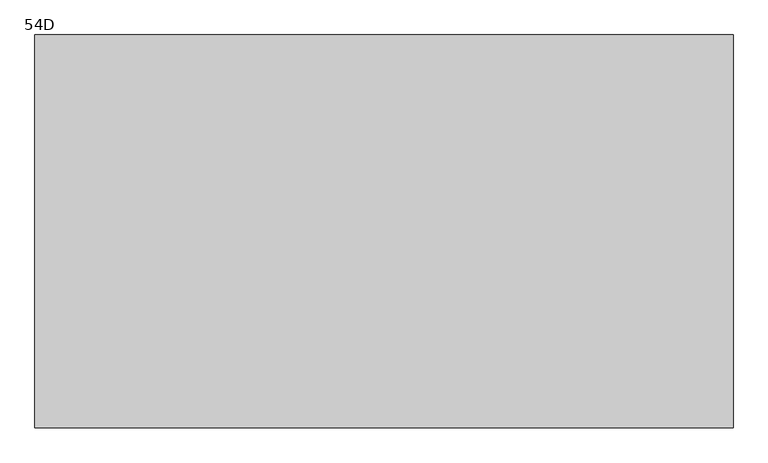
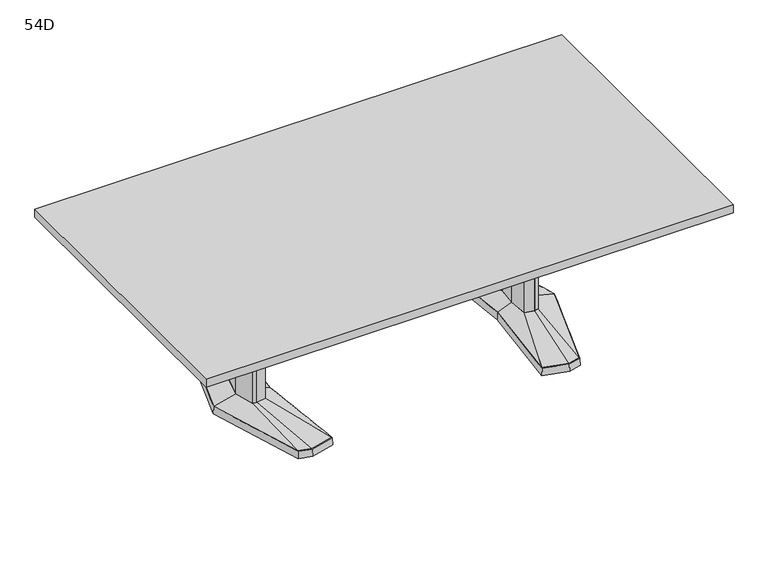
"""IFC4 building model written with IfcOpenShell, lengths in millimetres: furniture geometry, Coalesse_AM_Table_Conference_ETable2_Rectangular_96in_AluminiumBase : 54D."""

from ifc_helpers import new_model, si_unit, frame, origin, place, context, project, spatial, polyline, outline, extrude, faceted_brep, source, transform, mapped, element, save
from ifc_brep_helpers import plane_surface, spline_surface, advanced_brep


def furniture_54d_18104b15(model_context):
    return source(origin(), model_context, "Body", "SolidModel", [
        faceted_brep([(594.6806835, 455.5848221, 38.1), (485.1031277, 426.2263816, 38.1), (526.2663717, 0.0, 38.1), (485.1031277, -426.2263816, 38.1), (594.6806835, -455.5848221, 38.1), (650.8070396, -440.5478297, 38.1), (788.1184269, 0.0, 38.1), (650.8070396, 440.5478297, 38.1), (594.6806754, 457.2283104, 3.175), (652.0624472, 441.8549756, 3.175), (789.78125, 0.0, 3.175), (652.0624472, -441.8549756, 3.175), (594.6806754, -457.2283104, 3.175), (483.39375, -427.4118891, 3.175), (524.6714856, 0.0, 3.175), (483.39375, 427.4118891, 3.175), (598.270115, 428.3273875, 3.175), (493.2218228, 402.1057253, 3.175), (501.340518, 377.985069, 3.175), (601.8595466, 401.0699529, 3.175), (652.4191725, 387.524361, 3.175), (651.6131061, 414.0360954, 3.175), (598.270115, -428.3273875, 3.175), (651.6131061, -414.0360954, 3.175), (652.4191725, -387.524361, 3.175), (601.8595466, -401.0699529, 3.175), (501.340518, -377.985069, 3.175), (493.2218228, -402.1057253, 3.175), (724.8653621, 0.0, 3.175), (692.5959611, 120.4193755, 3.175), (643.9487222, 133.471665, 3.175), (564.0680526, 119.4176561, 3.175), (552.9368466, 0.0, 3.175), (564.0680526, -119.4176561, 3.175), (643.9487222, -133.471665, 3.175), (692.5959611, -120.4193755, 3.175), (598.270115, 428.3273875, 0.0), (651.6131061, 414.0360954, 0.0), (652.4191725, 387.524361, 0.0), (601.8595466, 401.0699529, 0.0), (501.340518, 377.985069, 0.0), (493.2218228, 402.1057253, 0.0), (598.270115, -428.3273875, 0.0), (493.2218228, -402.1057253, 0.0), (501.340518, -377.985069, 0.0), (601.8595466, -401.0699529, 0.0), (652.4191725, -387.524361, 0.0), (651.6131061, -414.0360954, 0.0), (724.8653621, 0.0, 0.0), (692.5959611, -120.4193755, 0.0), (643.9487222, -133.471665, 0.0), (564.0680526, -119.4176561, 0.0), (552.9368466, 0.0, 0.0), (564.0680526, 119.4176561, 0.0), (643.9487222, 133.471665, 0.0), (692.5959611, 120.4193755, 0.0)], [[[0, 1, 2, 3, 4, 5, 6, 7]], [[8, 9, 10, 11, 12, 13, 14, 15], [16, 17, 18, 19, 20, 21], [22, 23, 24, 25, 26, 27], [28, 29, 30, 31, 32, 33, 34, 35]], [[7, 9, 8, 0]], [[6, 10, 9, 7]], [[5, 11, 10, 6]], [[4, 12, 11, 5]], [[3, 13, 12, 4]], [[2, 14, 13, 3]], [[1, 15, 14, 2]], [[0, 8, 15, 1]], [[36, 37, 38, 39, 40, 41]], [[42, 43, 44, 45, 46, 47]], [[48, 49, 50, 51, 52, 53, 54, 55]], [[36, 16, 21, 37]], [[37, 21, 20, 38]], [[38, 20, 19, 39]], [[39, 19, 18, 40]], [[40, 18, 17, 41]], [[41, 17, 16, 36]], [[42, 22, 27, 43]], [[43, 27, 26, 44]], [[44, 26, 25, 45]], [[45, 25, 24, 46]], [[46, 24, 23, 47]], [[47, 23, 22, 42]], [[48, 28, 35, 49]], [[49, 35, 34, 50]], [[50, 34, 33, 51]], [[51, 33, 32, 52]], [[52, 32, 31, 53]], [[53, 31, 30, 54]], [[54, 30, 29, 55]], [[55, 29, 28, 48]]]),
        faceted_brep([(685.4210836, 0.0, 698.5), (661.4858546, 89.3188359, 698.5), (644.6324984, 93.8406728, 698.5), (642.2326511, 94.4845635, 698.5), (599.305146, 86.9320037, 698.5), (591.2020056, 0.0, 698.5), (599.305146, -86.9320037, 698.5), (642.2326511, -94.4845635, 698.5), (644.6324984, -93.8406728, 698.5), (661.4858546, -89.3188359, 698.5), (685.4210836, 0.0, 63.5), (661.4858546, -89.3188359, 63.5), (644.6324984, -93.8406728, 63.5), (642.2326511, -94.4845635, 63.5), (599.305146, -86.9320037, 63.5), (591.2020056, 0.0, 63.5), (599.305146, 86.9320037, 63.5), (642.2326511, 94.4845635, 63.5), (644.6324984, 93.8406728, 63.5), (661.4858546, 89.3188359, 63.5)], [[[0, 1, 2, 3, 4, 5, 6, 7, 8, 9]], [[10, 11, 12, 13, 14, 15, 16, 17, 18, 19]], [[9, 11, 10, 0]], [[8, 12, 11, 9]], [[7, 13, 12, 8]], [[6, 14, 13, 7]], [[5, 15, 14, 6]], [[4, 16, 15, 5]], [[3, 17, 16, 4]], [[2, 18, 17, 3]], [[1, 19, 18, 2]], [[0, 10, 19, 1]]]),
        advanced_brep(
        [(642.2326511, 94.4845635, 63.5), (599.305146, 86.9320037, 63.5), (591.2020056, 0.0, 63.5), (599.305146, -86.9320037, 63.5), (642.2326511, -94.4845635, 63.5), (661.4858546, -89.3188359, 63.5), (685.4210836, 0.0, 63.5), (661.4858546, 89.3188359, 63.5), (594.6806835, 455.5848221, 38.1), (650.8070396, 440.5478297, 38.1), (788.1184269, 0.0, 38.1), (650.8070396, -440.5478297, 38.1), (594.6806835, -455.5848221, 38.1), (485.1031277, -426.2263816, 38.1), (526.2663717, 0.0, 38.1), (485.1031277, 426.2263816, 38.1)],
        [
            (0, 1),
            (1, 2),
            (2, 3),
            (3, 4),
            (4, 5),
            (5, 6),
            (6, 7),
            (7, 0),
            (8, 9),
            (9, 10),
            (10, 11),
            (11, 12),
            (12, 13),
            (13, 14),
            (14, 15),
            (15, 8),
            (8, 0),
            (7, 9),
            (6, 10),
            (5, 11),
            (4, 12),
            (3, 13),
            (2, 14),
            (1, 15),
        ],
        [
            plane_surface(frame((635.3337991, 0.0, 63.5), z_axis=(0.0, 0.0, 1.0), x_axis=(-0.25884244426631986, -0.9659195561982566, 0.0))),
            plane_surface(frame((596.9458125, 0.0, 38.1), z_axis=(0.0, 0.0, -1.0), x_axis=(-0.25884244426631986, -0.9659195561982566, 0.0))),
            spline_surface(1, 1, [[(594.6806835, 455.5848221, 38.1), (650.8070396, 440.5478297, 38.1)], [(642.2326511, 94.4845635, 63.5), (661.4858546, 89.3188359, 63.5)]], [2, 2], [2, 2], [0.0, 1.0], [0.0, 1.0]),
            spline_surface(1, 1, [[(650.8070396, 440.5478297, 38.1), (788.1184269, 0.0, 38.1)], [(661.4858546, 89.3188359, 63.5), (685.4210836, 0.0, 63.5)]], [2, 2], [2, 2], [0.0, 1.0], [0.0, 1.0]),
            spline_surface(1, 1, [[(788.1184269, 0.0, 38.1), (650.8070396, -440.5478297, 38.1)], [(685.4210836, 0.0, 63.5), (661.4858546, -89.3188359, 63.5)]], [2, 2], [2, 2], [0.0, 1.0], [0.0, 1.0]),
            spline_surface(1, 1, [[(650.8070396, -440.5478297, 38.1), (594.6806835, -455.5848221, 38.1)], [(661.4858546, -89.3188359, 63.5), (642.2326511, -94.4845635, 63.5)]], [2, 2], [2, 2], [0.0, 1.0], [0.0, 1.0]),
            spline_surface(1, 1, [[(594.6806835, -455.5848221, 38.1), (485.1031277, -426.2263816, 38.1)], [(642.2326511, -94.4845635, 63.5), (599.305146, -86.9320037, 63.5)]], [2, 2], [2, 2], [0.0, 1.0], [0.0, 1.0]),
            spline_surface(1, 1, [[(485.1031277, -426.2263816, 38.1), (526.2663717, 0.0, 38.1)], [(599.305146, -86.9320037, 63.5), (591.2020056, 0.0, 63.5)]], [2, 2], [2, 2], [0.0, 1.0], [0.0, 1.0]),
            spline_surface(1, 1, [[(526.2663717, 0.0, 38.1), (485.1031277, 426.2263816, 38.1)], [(591.2020056, 0.0, 63.5), (599.305146, 86.9320037, 63.5)]], [2, 2], [2, 2], [0.0, 1.0], [0.0, 1.0]),
            spline_surface(1, 1, [[(485.1031277, 426.2263816, 38.1), (594.6806835, 455.5848221, 38.1)], [(599.305146, 86.9320037, 63.5), (642.2326511, 94.4845635, 63.5)]], [2, 2], [2, 2], [0.0, 1.0], [0.0, 1.0]),
        ],
        [
            (0, [[1, 2, 3, 4, 5, 6, 7, 8]]),
            (1, [[9, 10, 11, 12, 13, 14, 15, 16]]),
            (2, [[17, -8, 18, -9]]),
            (3, [[-18, -7, 19, -10]]),
            (4, [[-19, -6, 20, -11]]),
            (5, [[-20, -5, 21, -12]]),
            (6, [[-21, -4, 22, -13]]),
            (7, [[-22, -3, 23, -14]]),
            (8, [[-23, -2, 24, -15]]),
            (9, [[-24, -1, -17, -16]]),
        ],
    ),
        faceted_brep([(-594.6806835, 455.5848221, 38.1), (-650.8070396, 440.5478297, 38.1), (-788.1184269, 0.0, 38.1), (-650.8070396, -440.5478297, 38.1), (-594.6806835, -455.5848221, 38.1), (-485.1031277, -426.2263816, 38.1), (-526.2663717, 0.0, 38.1), (-485.1031277, 426.2263816, 38.1), (-594.6806754, 457.2283104, 3.175), (-483.39375, 427.4118891, 3.175), (-524.6714856, 0.0, 3.175), (-483.39375, -427.4118891, 3.175), (-594.6806754, -457.2283104, 3.175), (-652.0624472, -441.8549756, 3.175), (-789.78125, 0.0, 3.175), (-652.0624472, 441.8549756, 3.175), (-598.270115, 428.3273875, 3.175), (-651.6131061, 414.0360954, 3.175), (-652.4191725, 387.524361, 3.175), (-601.8595466, 401.0699529, 3.175), (-501.340518, 377.985069, 3.175), (-493.2218228, 402.1057253, 3.175), (-598.270115, -428.3273875, 3.175), (-493.2218228, -402.1057253, 3.175), (-501.340518, -377.985069, 3.175), (-601.8595466, -401.0699529, 3.175), (-652.4191725, -387.524361, 3.175), (-651.6131061, -414.0360954, 3.175), (-724.8653621, 0.0, 3.175), (-692.5959611, -120.4193755, 3.175), (-643.9487222, -133.471665, 3.175), (-564.0680526, -119.4176561, 3.175), (-552.9368466, 0.0, 3.175), (-564.0680526, 119.4176561, 3.175), (-643.9487222, 133.471665, 3.175), (-692.5959611, 120.4193755, 3.175), (-598.270115, 428.3273875, 0.0), (-493.2218228, 402.1057253, 0.0), (-501.340518, 377.985069, 0.0), (-601.8595466, 401.0699529, 0.0), (-652.4191725, 387.524361, 0.0), (-651.6131061, 414.0360954, 0.0), (-598.270115, -428.3273875, 0.0), (-651.6131061, -414.0360954, 0.0), (-652.4191725, -387.524361, 0.0), (-601.8595466, -401.0699529, 0.0), (-501.340518, -377.985069, 0.0), (-493.2218228, -402.1057253, 0.0), (-724.8653621, 0.0, 0.0), (-692.5959611, 120.4193755, 0.0), (-643.9487222, 133.471665, 0.0), (-564.0680526, 119.4176561, 0.0), (-552.9368466, 0.0, 0.0), (-564.0680526, -119.4176561, 0.0), (-643.9487222, -133.471665, 0.0), (-692.5959611, -120.4193755, 0.0)], [[[0, 1, 2, 3, 4, 5, 6, 7]], [[8, 9, 10, 11, 12, 13, 14, 15], [16, 17, 18, 19, 20, 21], [22, 23, 24, 25, 26, 27], [28, 29, 30, 31, 32, 33, 34, 35]], [[1, 0, 8, 15]], [[2, 1, 15, 14]], [[3, 2, 14, 13]], [[4, 3, 13, 12]], [[5, 4, 12, 11]], [[6, 5, 11, 10]], [[7, 6, 10, 9]], [[0, 7, 9, 8]], [[36, 37, 38, 39, 40, 41]], [[42, 43, 44, 45, 46, 47]], [[48, 49, 50, 51, 52, 53, 54, 55]], [[36, 41, 17, 16]], [[41, 40, 18, 17]], [[40, 39, 19, 18]], [[39, 38, 20, 19]], [[38, 37, 21, 20]], [[37, 36, 16, 21]], [[42, 47, 23, 22]], [[47, 46, 24, 23]], [[46, 45, 25, 24]], [[45, 44, 26, 25]], [[44, 43, 27, 26]], [[43, 42, 22, 27]], [[48, 55, 29, 28]], [[55, 54, 30, 29]], [[54, 53, 31, 30]], [[53, 52, 32, 31]], [[52, 51, 33, 32]], [[51, 50, 34, 33]], [[50, 49, 35, 34]], [[49, 48, 28, 35]]]),
        faceted_brep([(-685.4210836, 0.0, 698.5), (-661.4858546, -89.3188359, 698.5), (-644.6324984, -93.8406728, 698.5), (-642.2326511, -94.4845635, 698.5), (-599.305146, -86.9320037, 698.5), (-591.2020056, 0.0, 698.5), (-599.305146, 86.9320037, 698.5), (-642.2326511, 94.4845635, 698.5), (-644.6324984, 93.8406728, 698.5), (-661.4858546, 89.3188359, 698.5), (-685.4210836, 0.0, 63.5), (-661.4858546, 89.3188359, 63.5), (-644.6324984, 93.8406728, 63.5), (-642.2326511, 94.4845635, 63.5), (-599.305146, 86.9320037, 63.5), (-591.2020056, 0.0, 63.5), (-599.305146, -86.9320037, 63.5), (-642.2326511, -94.4845635, 63.5), (-644.6324984, -93.8406728, 63.5), (-661.4858546, -89.3188359, 63.5)], [[[0, 1, 2, 3, 4, 5, 6, 7, 8, 9]], [[10, 11, 12, 13, 14, 15, 16, 17, 18, 19]], [[1, 0, 10, 19]], [[2, 1, 19, 18]], [[3, 2, 18, 17]], [[4, 3, 17, 16]], [[5, 4, 16, 15]], [[6, 5, 15, 14]], [[7, 6, 14, 13]], [[8, 7, 13, 12]], [[9, 8, 12, 11]], [[0, 9, 11, 10]]]),
        advanced_brep(
        [(-642.2326511, 94.4845635, 63.5), (-661.4858546, 89.3188359, 63.5), (-685.4210836, 0.0, 63.5), (-661.4858546, -89.3188359, 63.5), (-642.2326511, -94.4845635, 63.5), (-599.305146, -86.9320037, 63.5), (-591.2020056, 0.0, 63.5), (-599.305146, 86.9320037, 63.5), (-594.6806835, 455.5848221, 38.1), (-485.1031277, 426.2263816, 38.1), (-526.2663717, 0.0, 38.1), (-485.1031277, -426.2263816, 38.1), (-594.6806835, -455.5848221, 38.1), (-650.8070396, -440.5478297, 38.1), (-788.1184269, 0.0, 38.1), (-650.8070396, 440.5478297, 38.1)],
        [
            (0, 1),
            (1, 2),
            (2, 3),
            (3, 4),
            (4, 5),
            (5, 6),
            (6, 7),
            (7, 0),
            (8, 9),
            (9, 10),
            (10, 11),
            (11, 12),
            (12, 13),
            (13, 14),
            (14, 15),
            (15, 8),
            (15, 1),
            (0, 8),
            (14, 2),
            (13, 3),
            (12, 4),
            (11, 5),
            (10, 6),
            (9, 7),
        ],
        [
            plane_surface(frame((-635.3337991, 0.0, 63.5), z_axis=(0.0, 0.0, 1.0), x_axis=(0.25884244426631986, -0.9659195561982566, 0.0))),
            plane_surface(frame((-596.9458125, 0.0, 38.1), z_axis=(0.0, 0.0, -1.0), x_axis=(0.25884244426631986, -0.9659195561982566, 0.0))),
            spline_surface(1, 1, [[(-594.6806835, 455.5848221, 38.1), (-642.2326511, 94.4845635, 63.5)], [(-650.8070396, 440.5478297, 38.1), (-661.4858546, 89.3188359, 63.5)]], [2, 2], [2, 2], [0.0, 1.0], [0.0, 1.0]),
            spline_surface(1, 1, [[(-650.8070396, 440.5478297, 38.1), (-661.4858546, 89.3188359, 63.5)], [(-788.1184269, 0.0, 38.1), (-685.4210836, 0.0, 63.5)]], [2, 2], [2, 2], [0.0, 1.0], [0.0, 1.0]),
            spline_surface(1, 1, [[(-788.1184269, 0.0, 38.1), (-685.4210836, 0.0, 63.5)], [(-650.8070396, -440.5478297, 38.1), (-661.4858546, -89.3188359, 63.5)]], [2, 2], [2, 2], [0.0, 1.0], [0.0, 1.0]),
            spline_surface(1, 1, [[(-650.8070396, -440.5478297, 38.1), (-661.4858546, -89.3188359, 63.5)], [(-594.6806835, -455.5848221, 38.1), (-642.2326511, -94.4845635, 63.5)]], [2, 2], [2, 2], [0.0, 1.0], [0.0, 1.0]),
            spline_surface(1, 1, [[(-594.6806835, -455.5848221, 38.1), (-642.2326511, -94.4845635, 63.5)], [(-485.1031277, -426.2263816, 38.1), (-599.305146, -86.9320037, 63.5)]], [2, 2], [2, 2], [0.0, 1.0], [0.0, 1.0]),
            spline_surface(1, 1, [[(-485.1031277, -426.2263816, 38.1), (-599.305146, -86.9320037, 63.5)], [(-526.2663717, 0.0, 38.1), (-591.2020056, 0.0, 63.5)]], [2, 2], [2, 2], [0.0, 1.0], [0.0, 1.0]),
            spline_surface(1, 1, [[(-526.2663717, 0.0, 38.1), (-591.2020056, 0.0, 63.5)], [(-485.1031277, 426.2263816, 38.1), (-599.305146, 86.9320037, 63.5)]], [2, 2], [2, 2], [0.0, 1.0], [0.0, 1.0]),
            spline_surface(1, 1, [[(-485.1031277, 426.2263816, 38.1), (-599.305146, 86.9320037, 63.5)], [(-594.6806835, 455.5848221, 38.1), (-642.2326511, 94.4845635, 63.5)]], [2, 2], [2, 2], [0.0, 1.0], [0.0, 1.0]),
        ],
        [
            (0, [[1, 2, 3, 4, 5, 6, 7, 8]]),
            (1, [[9, 10, 11, 12, 13, 14, 15, 16]]),
            (2, [[-16, 17, -1, 18]]),
            (3, [[-15, 19, -2, -17]]),
            (4, [[-14, 20, -3, -19]]),
            (5, [[-13, 21, -4, -20]]),
            (6, [[-12, 22, -5, -21]]),
            (7, [[-11, 23, -6, -22]]),
            (8, [[-10, 24, -7, -23]]),
            (9, [[-9, -18, -8, -24]]),
        ],
    ),
        extrude(outline(polyline([(96.8375, 698.5), (103.1875, 698.5), (103.1875, 476.25), (-103.1875, 476.25), (-103.1875, 698.5), (-96.8375, 698.5), (-96.8375, 482.6), (96.8375, 482.6), (96.8375, 698.5)])), frame((-597.9364207, 0.0, 0.0), z_axis=(1.0, 0.0, 0.0), x_axis=(0.0, 1.0, 0.0)), (0.0, 0.0, 1.0), 1195.8728415),
        extrude(outline(polyline([(-1219.2, -685.8), (-1219.2, 685.8), (1219.2, 685.8), (1219.2, -685.8), (-1219.2, -685.8)])), frame((0.0, 0.0, 698.5), z_axis=(0.0, 0.0, 1.0), x_axis=(1.0, 0.0, 0.0)), (0.0, 0.0, 1.0), 38.1),
    ])


if __name__ == "__main__":
    model = new_model("IFC4")
    model_context = context("Model", 3, world=origin())
    ifc_project = project(units=[si_unit("LENGTHUNIT", "METRE", prefix="MILLI")], contexts=[model_context])
    site = spatial("IfcSite", under=ifc_project)
    building = spatial("IfcBuilding", under=site)
    placement = place(None, origin())
    furniture_54d_shape = furniture_54d_18104b15(model_context)
    element("IfcFurniture", 1, ObjectType="Coalesse_AM_Table_Conference_ETable2_Rectangular_96in_AluminiumBase : 54D", at=placement, inside=building, context=model_context, shape_type="MappedRepresentation", body=[
        mapped(furniture_54d_shape, transform((0.0, 0.0, 0.0), x_axis=(1.0, 0.0, 0.0), y_axis=(0.0, 1.0, 0.0), z_axis=(0.0, 0.0, 1.0))),
    ])
    save(model, "model.ifc")
